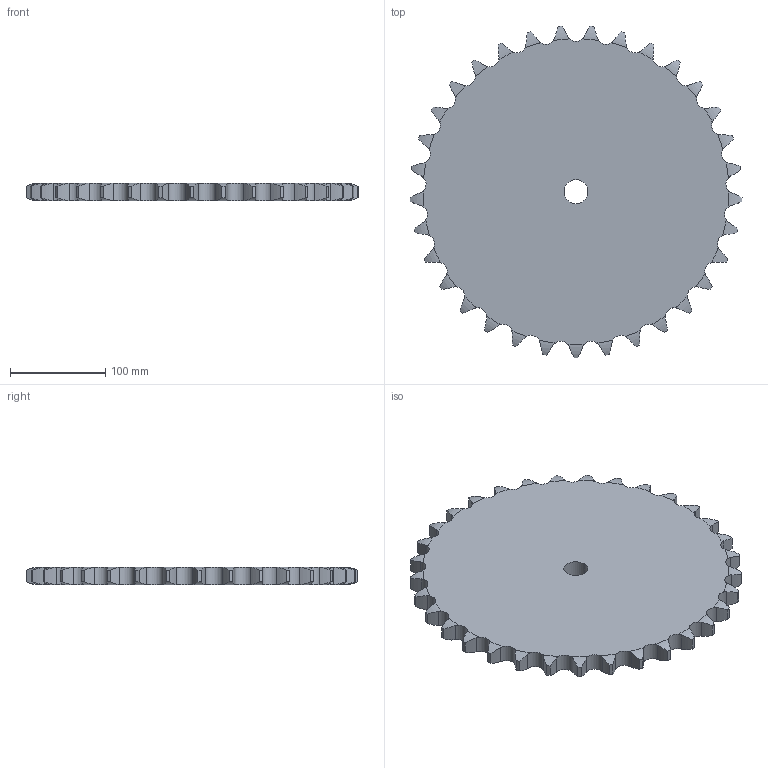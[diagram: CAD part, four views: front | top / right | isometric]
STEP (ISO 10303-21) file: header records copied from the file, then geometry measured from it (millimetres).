
FILE_DESCRIPTION((''),'2;1');
FILE_NAME('500-601-0033_PRT','2021-02-12T',('Brieden'),('Brieden'),'PRO/ENGINEER BY PARAMETRIC TECHNOLOGY CORPORATION, 2010160','PRO/ENGINEER BY PARAMETRIC TECHNOLOGY CORPORATION, 2010160','');
FILE_SCHEMA(('AUTOMOTIVE_DESIGN { 1 0 10303 214 1 1 1 1 }'));
Length unit declared in the file: millimetre
Products named in the file (1): 500-601-0033_PRT
Bounding box: 348.02 x 347.63 x 18.5 mm (x, y, z)
Volume: 1547917.8 mm3; surface area: 197299.7 mm2
Topology: 1 solids, 1 shells, 202 faces, 600 edges, 400 vertices
Faces by surface type: cylinder 134, torus 66, plane 2
Entity records: 10052 total; most frequent: CARTESIAN_POINT 3085, ORIENTED_EDGE 1200, DIRECTION 942, PRESENTATION_STYLE_ASSIGNMENT 601, STYLED_ITEM 601, CURVE_STYLE 600, EDGE_CURVE 600, AXIS2_PLACEMENT_3D 404
